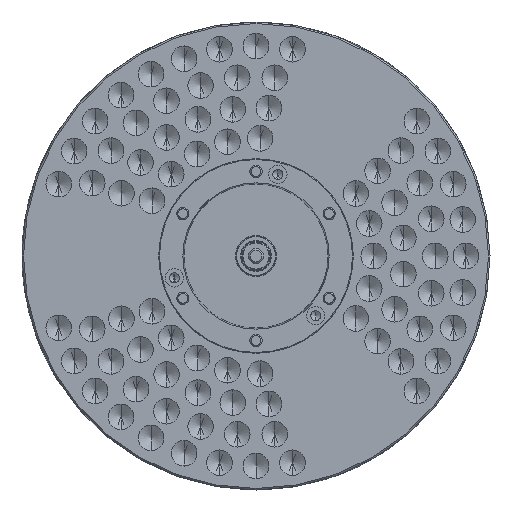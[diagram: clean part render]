
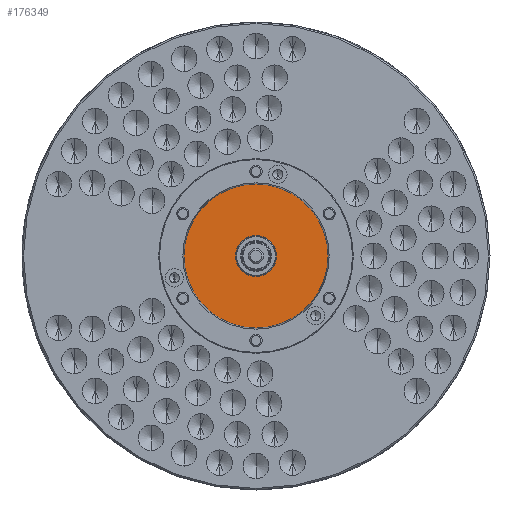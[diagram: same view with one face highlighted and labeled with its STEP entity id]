
A CAD part, left-side view. The second image highlights one B-rep face of the part: STEP entity #176349.
In plain terms, the highlighted planar face has unit normal (-1, 0, 0) as drawn and (0, 0, -1) by its records, which use the part's own axes.
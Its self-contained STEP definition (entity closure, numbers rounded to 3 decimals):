
#10273 = CIRCLE ( 'NONE', #68343, 140.7 ) ;
#12834 = VERTEX_POINT ( 'NONE', #150160 ) ;
#21431 = EDGE_CURVE ( 'NONE', #23117, #12834, #47719, .T. ) ;
#21733 = ORIENTED_EDGE ( 'NONE', *, *, #90424, .T. ) ;
#23117 = VERTEX_POINT ( 'NONE', #93889 ) ;
#29721 = ORIENTED_EDGE ( 'NONE', *, *, #21431, .F. ) ;
#34731 = FACE_OUTER_BOUND ( 'NONE', #104819, .T. ) ;
#38283 = CARTESIAN_POINT ( 'NONE',  ( 0., 0., -145. ) ) ;
#39241 = DIRECTION ( 'NONE',  ( 0., 0., 1. ) ) ;
#40617 = DIRECTION ( 'NONE',  ( 0., 0., 1. ) ) ;
#44885 = DIRECTION ( 'NONE',  ( 0., 0., 1. ) ) ;
#47719 = CIRCLE ( 'NONE', #150634, 140.7 ) ;
#49174 = EDGE_LOOP ( 'NONE', ( #21733, #124424 ) ) ;
#52191 = DIRECTION ( 'NONE',  ( 1., 0., 0. ) ) ;
#56349 = EDGE_CURVE ( 'NONE', #171841, #174815, #157567, .T. ) ;
#58006 = ORIENTED_EDGE ( 'NONE', *, *, #105014, .F. ) ;
#66606 = CARTESIAN_POINT ( 'NONE',  ( 0., -140.7, -145. ) ) ;
#68343 = AXIS2_PLACEMENT_3D ( 'NONE', #70176, #167095, #84080 ) ;
#70176 = CARTESIAN_POINT ( 'NONE',  ( 0., 0., -145. ) ) ;
#71644 = FACE_BOUND ( 'NONE', #49174, .T. ) ;
#84080 = DIRECTION ( 'NONE',  ( 1., 0., 0. ) ) ;
#90424 = EDGE_CURVE ( 'NONE', #174815, #171841, #157539, .T. ) ;
#93889 = CARTESIAN_POINT ( 'NONE',  ( -140.7, 0., -145. ) ) ;
#104819 = EDGE_LOOP ( 'NONE', ( #58006, #29721 ) ) ;
#105014 = EDGE_CURVE ( 'NONE', #12834, #23117, #10273, .T. ) ;
#108314 = PLANE ( 'NONE',  #160570 ) ;
#123633 = CARTESIAN_POINT ( 'NONE',  ( 0., 0., -145. ) ) ;
#124424 = ORIENTED_EDGE ( 'NONE', *, *, #56349, .T. ) ;
#127731 = AXIS2_PLACEMENT_3D ( 'NONE', #127872, #44885, #141725 ) ;
#127872 = CARTESIAN_POINT ( 'NONE',  ( 0., 0., -145. ) ) ;
#135155 = DIRECTION ( 'NONE',  ( 0., 0., 1. ) ) ;
#136154 = DIRECTION ( 'NONE',  ( 1., 0., 0. ) ) ;
#137488 = DIRECTION ( 'NONE',  ( 1., 0., 0. ) ) ;
#141725 = DIRECTION ( 'NONE',  ( 1., 0., 0. ) ) ;
#148953 = AXIS2_PLACEMENT_3D ( 'NONE', #38283, #135155, #52191 ) ;
#150160 = CARTESIAN_POINT ( 'NONE',  ( 140.7, 0., -145. ) ) ;
#150634 = AXIS2_PLACEMENT_3D ( 'NONE', #123633, #40617, #137488 ) ;
#157539 = CIRCLE ( 'NONE', #148953, 40. ) ;
#157567 = CIRCLE ( 'NONE', #127731, 40. ) ;
#160570 = AXIS2_PLACEMENT_3D ( 'NONE', #66606, #39241, #136154 ) ;
#167095 = DIRECTION ( 'NONE',  ( 0., 0., 1. ) ) ;
#169449 = CARTESIAN_POINT ( 'NONE',  ( -40., 0., -145. ) ) ;
#171366 = CARTESIAN_POINT ( 'NONE',  ( 40., 0., -145. ) ) ;
#171841 = VERTEX_POINT ( 'NONE', #169449 ) ;
#174815 = VERTEX_POINT ( 'NONE', #171366 ) ;
#176349 = ADVANCED_FACE ( 'NONE', ( #34731, #71644 ), #108314, .F. ) ;
